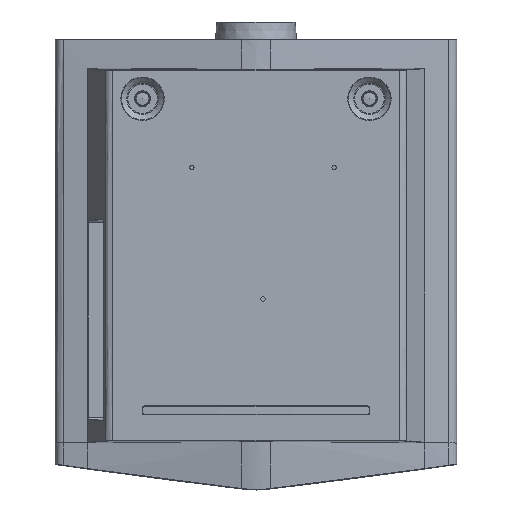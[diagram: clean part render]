
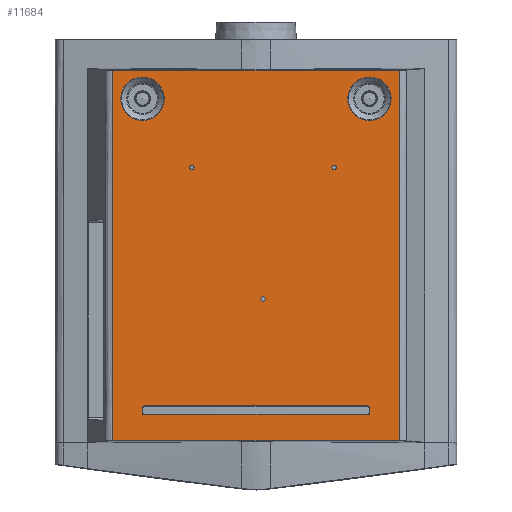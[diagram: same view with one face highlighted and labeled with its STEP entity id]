
A CAD part, front view. The second image highlights one B-rep face of the part: STEP entity #11684.
In plain terms, the highlighted planar face has unit normal (0, -1, 0).
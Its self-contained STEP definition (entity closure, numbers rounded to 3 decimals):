
#9250=FACE_BOUND('',#14479,.T.);
#9251=FACE_BOUND('',#14480,.T.);
#9252=FACE_BOUND('',#14481,.T.);
#9253=FACE_BOUND('',#14482,.T.);
#9254=FACE_BOUND('',#14483,.T.);
#9255=FACE_BOUND('',#14484,.T.);
#9256=FACE_BOUND('',#14485,.T.);
#9409=PLANE('',#30451);
#10197=LINE('',#41974,#10923);
#10198=LINE('',#42412,#10924);
#10202=LINE('',#43215,#10928);
#10203=LINE('',#43439,#10929);
#10204=LINE('',#43482,#10930);
#10205=LINE('',#43487,#10931);
#10206=LINE('',#43491,#10932);
#10207=LINE('',#43495,#10933);
#10923=VECTOR('',#32359,1.);
#10924=VECTOR('',#32360,1.);
#10928=VECTOR('',#32372,1.);
#10929=VECTOR('',#32373,1.);
#10930=VECTOR('',#32384,1.);
#10931=VECTOR('',#32387,1.);
#10932=VECTOR('',#32390,1.);
#10933=VECTOR('',#32393,1.);
#11684=ADVANCED_FACE('',(#9250,#9251,#9252,#9253,#9254,#9255,#9256),#9409,
 .T.);
#14479=EDGE_LOOP('',(#17138));
#14480=EDGE_LOOP('',(#17139));
#14481=EDGE_LOOP('',(#17140));
#14482=EDGE_LOOP('',(#17141,#17142,#17143,#17144));
#14483=EDGE_LOOP('',(#17145));
#14484=EDGE_LOOP('',(#17146));
#14485=EDGE_LOOP('',(#17147,#17148,#17149,#17150,#17151,#17152,#17153,#17154));
#15727=CIRCLE('',#30442,2.5);
#15728=CIRCLE('',#30443,2.5);
#15729=CIRCLE('',#30444,2.5);
#15730=CIRCLE('',#30445,24.879);
#15731=CIRCLE('',#30446,24.879);
#15732=CIRCLE('',#30447,2.);
#15733=CIRCLE('',#30448,2.);
#15734=CIRCLE('',#30449,2.);
#15735=CIRCLE('',#30450,2.);
#17138=ORIENTED_EDGE('',*,*,#25744,.F.);
#17139=ORIENTED_EDGE('',*,*,#25745,.F.);
#17140=ORIENTED_EDGE('',*,*,#25746,.F.);
#17141=ORIENTED_EDGE('',*,*,#25722,.T.);
#17142=ORIENTED_EDGE('',*,*,#25717,.T.);
#17143=ORIENTED_EDGE('',*,*,#25743,.T.);
#17144=ORIENTED_EDGE('',*,*,#25740,.T.);
#17145=ORIENTED_EDGE('',*,*,#25747,.F.);
#17146=ORIENTED_EDGE('',*,*,#25748,.F.);
#17147=ORIENTED_EDGE('',*,*,#25749,.T.);
#17148=ORIENTED_EDGE('',*,*,#25750,.T.);
#17149=ORIENTED_EDGE('',*,*,#25751,.T.);
#17150=ORIENTED_EDGE('',*,*,#25752,.T.);
#17151=ORIENTED_EDGE('',*,*,#25753,.F.);
#17152=ORIENTED_EDGE('',*,*,#25754,.T.);
#17153=ORIENTED_EDGE('',*,*,#25755,.F.);
#17154=ORIENTED_EDGE('',*,*,#25756,.T.);
#23464=VERTEX_POINT('',#41973);
#23465=VERTEX_POINT('',#41975);
#23466=VERTEX_POINT('',#42413);
#23473=VERTEX_POINT('',#43216);
#23474=VERTEX_POINT('',#43473);
#23475=VERTEX_POINT('',#43475);
#23476=VERTEX_POINT('',#43477);
#23477=VERTEX_POINT('',#43479);
#23478=VERTEX_POINT('',#43481);
#23479=VERTEX_POINT('',#43483);
#23480=VERTEX_POINT('',#43484);
#23481=VERTEX_POINT('',#43486);
#23482=VERTEX_POINT('',#43488);
#23483=VERTEX_POINT('',#43490);
#23484=VERTEX_POINT('',#43492);
#23485=VERTEX_POINT('',#43494);
#23486=VERTEX_POINT('',#43496);
#25717=EDGE_CURVE('',#23465,#23464,#10197,.T.);
#25722=EDGE_CURVE('',#23466,#23465,#10198,.T.);
#25740=EDGE_CURVE('',#23473,#23466,#10202,.T.);
#25743=EDGE_CURVE('',#23464,#23473,#10203,.T.);
#25744=EDGE_CURVE('',#23474,#23474,#15727,.T.);
#25745=EDGE_CURVE('',#23475,#23475,#15728,.T.);
#25746=EDGE_CURVE('',#23476,#23476,#15729,.T.);
#25747=EDGE_CURVE('',#23477,#23477,#15730,.T.);
#25748=EDGE_CURVE('',#23478,#23478,#15731,.T.);
#25749=EDGE_CURVE('',#23479,#23480,#10204,.T.);
#25750=EDGE_CURVE('',#23480,#23481,#15732,.T.);
#25751=EDGE_CURVE('',#23481,#23482,#10205,.T.);
#25752=EDGE_CURVE('',#23482,#23483,#15733,.T.);
#25753=EDGE_CURVE('',#23484,#23483,#10206,.T.);
#25754=EDGE_CURVE('',#23484,#23485,#15734,.T.);
#25755=EDGE_CURVE('',#23486,#23485,#10207,.T.);
#25756=EDGE_CURVE('',#23486,#23479,#15735,.T.);
#30442=AXIS2_PLACEMENT_3D('',#43472,#32374,#32375);
#30443=AXIS2_PLACEMENT_3D('',#43474,#32376,#32377);
#30444=AXIS2_PLACEMENT_3D('',#43476,#32378,#32379);
#30445=AXIS2_PLACEMENT_3D('',#43478,#32380,#32381);
#30446=AXIS2_PLACEMENT_3D('',#43480,#32382,#32383);
#30447=AXIS2_PLACEMENT_3D('',#43485,#32385,#32386);
#30448=AXIS2_PLACEMENT_3D('',#43489,#32388,#32389);
#30449=AXIS2_PLACEMENT_3D('',#43493,#32391,#32392);
#30450=AXIS2_PLACEMENT_3D('',#43497,#32394,#32395);
#30451=AXIS2_PLACEMENT_3D('',#43498,#32396,#32397);
#32359=DIRECTION('',(1.,0.,0.));
#32360=DIRECTION('',(0.,0.,-1.));
#32372=DIRECTION('',(-1.,0.,0.));
#32373=DIRECTION('',(0.,0.,1.));
#32374=DIRECTION('',(0.,-1.,0.));
#32375=DIRECTION('',(1.,0.,0.));
#32376=DIRECTION('',(0.,-1.,0.));
#32377=DIRECTION('',(1.,0.,0.));
#32378=DIRECTION('',(0.,-1.,0.));
#32379=DIRECTION('',(1.,0.,0.));
#32380=DIRECTION('',(0.,-1.,0.));
#32381=DIRECTION('',(0.,0.,1.));
#32382=DIRECTION('',(0.,-1.,0.));
#32383=DIRECTION('',(0.,0.,1.));
#32384=DIRECTION('',(0.,0.,-1.));
#32385=DIRECTION('',(0.,1.,0.));
#32386=DIRECTION('',(1.,0.,0.));
#32387=DIRECTION('',(-1.,0.,0.));
#32388=DIRECTION('',(0.,1.,0.));
#32389=DIRECTION('',(0.,0.,-1.));
#32390=DIRECTION('',(0.,0.,-1.));
#32391=DIRECTION('',(0.,1.,0.));
#32392=DIRECTION('',(-1.,0.,0.));
#32393=DIRECTION('',(-1.,0.,0.));
#32394=DIRECTION('',(0.,1.,0.));
#32395=DIRECTION('',(0.,0.,1.));
#32396=DIRECTION('',(0.,-1.,0.));
#32397=DIRECTION('',(0.,0.,-1.));
#41973=CARTESIAN_POINT('',(164.226,-111.,-244.526));
#41974=CARTESIAN_POINT('',(-164.226,-111.,-244.526));
#41975=CARTESIAN_POINT('',(-164.226,-111.,-244.526));
#42412=CARTESIAN_POINT('',(-164.226,-111.,179.526));
#42413=CARTESIAN_POINT('',(-164.226,-111.,179.526));
#43215=CARTESIAN_POINT('',(164.226,-111.,179.526));
#43216=CARTESIAN_POINT('',(164.226,-111.,179.526));
#43439=CARTESIAN_POINT('',(164.226,-111.,-244.526));
#43472=CARTESIAN_POINT('',(8.,-111.,-82.405));
#43473=CARTESIAN_POINT('',(10.5,-111.,-82.405));
#43474=CARTESIAN_POINT('',(-73.5,-111.,68.195));
#43475=CARTESIAN_POINT('',(-71.,-111.,68.195));
#43476=CARTESIAN_POINT('',(89.5,-111.,68.195));
#43477=CARTESIAN_POINT('',(92.,-111.,68.195));
#43478=CARTESIAN_POINT('',(-130.,-111.,147.));
#43479=CARTESIAN_POINT('',(-130.,-111.,171.879));
#43480=CARTESIAN_POINT('',(130.,-111.,147.));
#43481=CARTESIAN_POINT('',(130.,-111.,171.879));
#43482=CARTESIAN_POINT('',(130.,-111.,-207.));
#43483=CARTESIAN_POINT('',(130.,-111.,-207.));
#43484=CARTESIAN_POINT('',(130.,-111.,-213.));
#43485=CARTESIAN_POINT('',(128.,-111.,-213.));
#43486=CARTESIAN_POINT('',(128.,-111.,-215.));
#43487=CARTESIAN_POINT('',(128.,-111.,-215.));
#43488=CARTESIAN_POINT('',(-128.,-111.,-215.));
#43489=CARTESIAN_POINT('',(-128.,-111.,-213.));
#43490=CARTESIAN_POINT('',(-130.,-111.,-213.));
#43491=CARTESIAN_POINT('',(-130.,-111.,-207.));
#43492=CARTESIAN_POINT('',(-130.,-111.,-207.));
#43493=CARTESIAN_POINT('',(-128.,-111.,-207.));
#43494=CARTESIAN_POINT('',(-128.,-111.,-205.));
#43495=CARTESIAN_POINT('',(128.,-111.,-205.));
#43496=CARTESIAN_POINT('',(128.,-111.,-205.));
#43497=CARTESIAN_POINT('',(128.,-111.,-207.));
#43498=CARTESIAN_POINT('',(-164.726,-111.,180.026));
